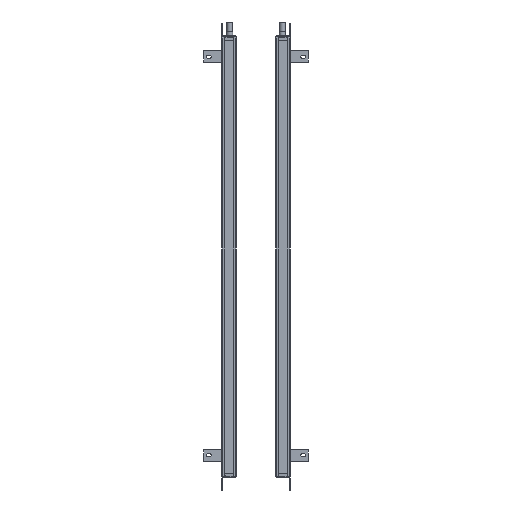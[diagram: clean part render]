
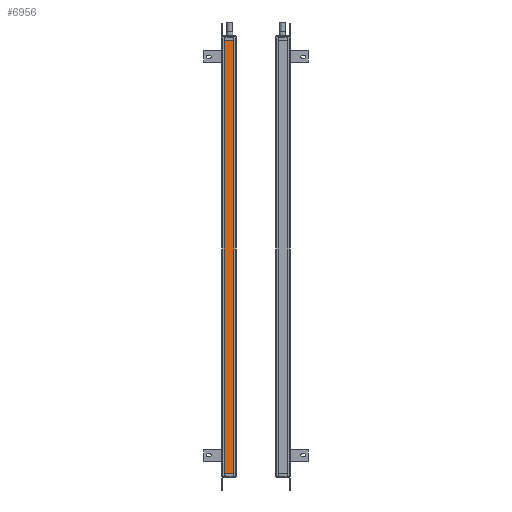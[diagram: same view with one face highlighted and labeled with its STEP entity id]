
A CAD part, left-side view. The second image highlights one B-rep face of the part: STEP entity #6956.
In plain terms, the highlighted planar face has unit normal (-1, 0, 0).
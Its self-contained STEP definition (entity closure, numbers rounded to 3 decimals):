
#953=FACE_OUTER_BOUND('',#9034,.T.);
#2188=LINE('',#33710,#4326);
#2290=LINE('',#34050,#4428);
#2291=LINE('',#34052,#4429);
#2292=LINE('',#34054,#4430);
#4326=VECTOR('',#26897,1.);
#4428=VECTOR('',#27185,1.);
#4429=VECTOR('',#27188,1.);
#4430=VECTOR('',#27189,1.);
#6178=PLANE('',#23723);
#6956=ADVANCED_FACE('',(#953),#6178,.T.);
#9034=EDGE_LOOP('',(#11681,#11682,#11683,#11684));
#11681=ORIENTED_EDGE('',*,*,#19828,.F.);
#11682=ORIENTED_EDGE('',*,*,#19829,.T.);
#11683=ORIENTED_EDGE('',*,*,#19830,.T.);
#11684=ORIENTED_EDGE('',*,*,#19658,.F.);
#17203=VERTEX_POINT('',#33709);
#17204=VERTEX_POINT('',#33711);
#17348=VERTEX_POINT('',#34049);
#17349=VERTEX_POINT('',#34053);
#19658=EDGE_CURVE('',#17203,#17204,#2188,.T.);
#19828=EDGE_CURVE('',#17348,#17203,#2290,.T.);
#19829=EDGE_CURVE('',#17348,#17349,#2291,.T.);
#19830=EDGE_CURVE('',#17349,#17204,#2292,.T.);
#23723=AXIS2_PLACEMENT_3D('',#34055,#27190,#27191);
#26897=DIRECTION('',(0.,-1.,0.));
#27185=DIRECTION('',(0.,0.,1.));
#27188=DIRECTION('',(0.,-1.,0.));
#27189=DIRECTION('',(0.,0.,1.));
#27190=DIRECTION('',(-1.,0.,0.));
#27191=DIRECTION('',(0.,1.,0.));
#33709=CARTESIAN_POINT('',(233.846,104.141,31.645));
#33710=CARTESIAN_POINT('',(233.846,81.141,31.645));
#33711=CARTESIAN_POINT('',(233.846,81.141,31.645));
#34049=CARTESIAN_POINT('',(233.846,104.141,-1033.355));
#34050=CARTESIAN_POINT('',(233.846,104.141,-155.355));
#34052=CARTESIAN_POINT('',(233.846,81.141,-1033.355));
#34053=CARTESIAN_POINT('',(233.846,81.141,-1033.355));
#34054=CARTESIAN_POINT('',(233.846,81.141,-155.355));
#34055=CARTESIAN_POINT('',(233.846,81.141,-50.355));
